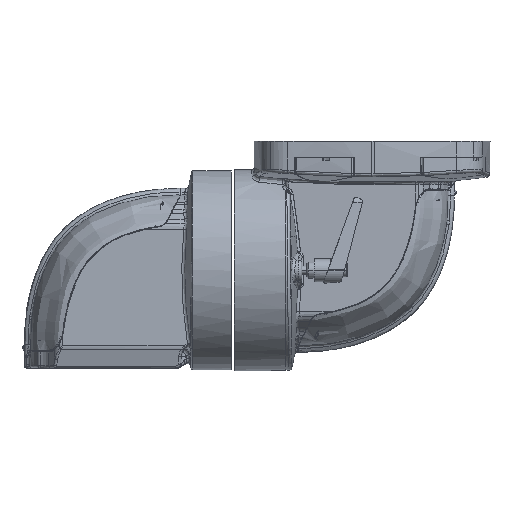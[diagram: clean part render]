
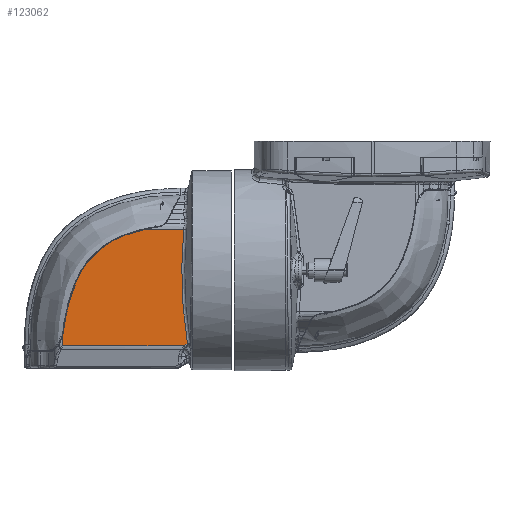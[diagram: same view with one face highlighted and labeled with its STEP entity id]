
A CAD part, left-side view. The second image highlights one B-rep face of the part: STEP entity #123062.
In plain terms, the highlighted planar face has unit normal (-1, 0.011, 0) as drawn and (-0.009, 0, 1) by its records, which use the part's own axes.
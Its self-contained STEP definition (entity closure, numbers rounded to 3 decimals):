
#626 = EDGE_CURVE ( 'NONE', #177926, #51211, #322505, .T. ) ;
#3096 = ORIENTED_EDGE ( 'NONE', *, *, #111927, .F. ) ;
#14087 = CARTESIAN_POINT ( 'NONE',  ( 104.365, -152.434, 13.564 ) ) ;
#16990 = CARTESIAN_POINT ( 'NONE',  ( 143.044, -91.233, 13.901 ) ) ;
#20393 = CARTESIAN_POINT ( 'NONE',  ( 112.494, -120.004, 13.635 ) ) ;
#22169 = CARTESIAN_POINT ( 'NONE',  ( 141.045, -92.012, 13.884 ) ) ;
#28403 = AXIS2_PLACEMENT_3D ( 'NONE', #241424, #115222, #38843 ) ;
#29060 = CARTESIAN_POINT ( 'NONE',  ( 179.18, -158.634, 14.217 ) ) ;
#33156 = DIRECTION ( 'NONE',  ( 0., -1., 0. ) ) ;
#36340 = CARTESIAN_POINT ( 'NONE',  ( 154.84, -87.795, 14.005 ) ) ;
#37198 = CARTESIAN_POINT ( 'NONE',  ( 144.909, -90.545, 13.918 ) ) ;
#38843 = DIRECTION ( 'NONE',  ( -0.996, 0.09, -0.009 ) ) ;
#48565 = VERTEX_POINT ( 'NONE', #36340 ) ;
#51211 = VERTEX_POINT ( 'NONE', #14087 ) ;
#52977 = CARTESIAN_POINT ( 'NONE',  ( 141.709, -91.747, 13.89 ) ) ;
#53447 = B_SPLINE_CURVE_WITH_KNOTS ( 'NONE', 3,
 ( #153755, #149409, #52977, #175966 ),
 .UNSPECIFIED., .F., .F.,
 ( 4, 4 ),
 ( 0., 1. ),
 .UNSPECIFIED. ) ;
#59380 = ORIENTED_EDGE ( 'NONE', *, *, #305714, .T. ) ;
#63845 = AXIS2_PLACEMENT_3D ( 'NONE', #232566, #182746, #86402 ) ;
#74549 = CARTESIAN_POINT ( 'NONE',  ( 104.904, -149.394, 13.569 ) ) ;
#77712 = CARTESIAN_POINT ( 'NONE',  ( 104.365, -159.142, 13.564 ) ) ;
#85977 = FACE_OUTER_BOUND ( 'NONE', #182164, .T. ) ;
#86402 = DIRECTION ( 'NONE',  ( 0., -1., 0. ) ) ;
#87026 = CARTESIAN_POINT ( 'NONE',  ( 153.836, -88.017, 13.996 ) ) ;
#88120 = CARTESIAN_POINT ( 'NONE',  ( 148.983, -89.286, 13.953 ) ) ;
#99994 = VERTEX_POINT ( 'NONE', #16990 ) ;
#106438 = VERTEX_POINT ( 'NONE', #22169 ) ;
#108647 = CARTESIAN_POINT ( 'NONE',  ( 180.65, -157.91, 14.23 ) ) ;
#110287 = CARTESIAN_POINT ( 'NONE',  ( 149.135, -89.242, 13.955 ) ) ;
#111370 = CARTESIAN_POINT ( 'NONE',  ( 149.044, -89.269, 13.954 ) ) ;
#111927 = EDGE_CURVE ( 'NONE', #48565, #207827, #232669, .T. ) ;
#113589 = CARTESIAN_POINT ( 'NONE',  ( 146.868, -89.899, 13.935 ) ) ;
#115222 = DIRECTION ( 'NONE',  ( -0.009, 0., 1. ) ) ;
#117806 = CARTESIAN_POINT ( 'NONE',  ( 135.582, -94.157, 13.837 ) ) ;
#118044 = ORIENTED_EDGE ( 'NONE', *, *, #214917, .F. ) ;
#118942 = EDGE_CURVE ( 'NONE', #51211, #320028, #311644, .T. ) ;
#121607 = VERTEX_POINT ( 'NONE', #228374 ) ;
#123062 = ADVANCED_FACE ( 'NONE', ( #85977 ), #129628, .T. ) ;
#129628 = PLANE ( 'NONE',  #63845 ) ;
#130434 = EDGE_CURVE ( 'NONE', #106438, #197953, #306468, .T. ) ;
#132788 = CARTESIAN_POINT ( 'NONE',  ( 104.365, -152.434, 13.564 ) ) ;
#137986 = CARTESIAN_POINT ( 'NONE',  ( 149.772, -89.061, 13.96 ) ) ;
#140952 = ORIENTED_EDGE ( 'NONE', *, *, #626, .T. ) ;
#145481 = CARTESIAN_POINT ( 'NONE',  ( 117.274, -110.392, 13.677 ) ) ;
#145960 = EDGE_CURVE ( 'NONE', #48565, #99994, #206613, .T. ) ;
#149409 = CARTESIAN_POINT ( 'NONE',  ( 142.376, -91.49, 13.896 ) ) ;
#153084 = CARTESIAN_POINT ( 'NONE',  ( 178.538, -159.142, 14.211 ) ) ;
#153755 = CARTESIAN_POINT ( 'NONE',  ( 143.044, -91.233, 13.901 ) ) ;
#156339 = CARTESIAN_POINT ( 'NONE',  ( 180.65, -157.91, 14.23 ) ) ;
#164527 = CARTESIAN_POINT ( 'NONE',  ( 152.344, -88.372, 13.983 ) ) ;
#167662 = CARTESIAN_POINT ( 'NONE',  ( 141.045, -92.012, 13.884 ) ) ;
#172364 = B_SPLINE_CURVE_WITH_KNOTS ( 'NONE', 3,
 ( #156339, #304839, #29060, #153084 ),
 .UNSPECIFIED., .F., .F.,
 ( 4, 4 ),
 ( 0., 1. ),
 .UNSPECIFIED. ) ;
#173293 = CARTESIAN_POINT ( 'NONE',  ( 154.84, -87.795, 14.005 ) ) ;
#175966 = CARTESIAN_POINT ( 'NONE',  ( 141.045, -92.012, 13.884 ) ) ;
#177926 = VERTEX_POINT ( 'NONE', #74549 ) ;
#182164 = EDGE_LOOP ( 'NONE', ( #3096, #293513, #59380, #259209, #202620, #140952, #245825, #118044, #271989, #237440 ) ) ;
#182746 = DIRECTION ( 'NONE',  ( -0.009, 0., 1. ) ) ;
#188911 = CARTESIAN_POINT ( 'NONE',  ( 148.955, -89.294, 13.953 ) ) ;
#197953 = VERTEX_POINT ( 'NONE', #225055 ) ;
#199777 = CARTESIAN_POINT ( 'NONE',  ( 104.79, -150.416, 13.568 ) ) ;
#202620 = ORIENTED_EDGE ( 'NONE', *, *, #325155, .T. ) ;
#203173 = B_SPLINE_CURVE_WITH_KNOTS ( 'NONE', 3,
 ( #20393, #297270, #222964, #321636 ),
 .UNSPECIFIED., .F., .F.,
 ( 4, 4 ),
 ( 0., 1. ),
 .UNSPECIFIED. ) ;
#205311 = CARTESIAN_POINT ( 'NONE',  ( 178.538, -159.142, 14.211 ) ) ;
#206231 = CIRCLE ( 'NONE', #28403, 284.104 ) ;
#206613 = B_SPLINE_CURVE_WITH_KNOTS ( 'NONE', 3,
 ( #287471, #87026, #164527, #214345, #137986, #315161, #110287, #111370, #88120, #188911, #113589, #37198, #265269 ),
 .UNSPECIFIED., .F., .F.,
 ( 4, 1, 1, 1, 1, 1, 2, 2, 4 ),
 ( 0., 0.25, 0.375, 0.438, 0.469, 0.484, 0.492, 0.5, 1. ),
 .UNSPECIFIED. ) ;
#206667 = EDGE_CURVE ( 'NONE', #207827, #292141, #206231, .T. ) ;
#207827 = VERTEX_POINT ( 'NONE', #265243 ) ;
#214345 = CARTESIAN_POINT ( 'NONE',  ( 150.625, -88.825, 13.968 ) ) ;
#214917 = EDGE_CURVE ( 'NONE', #121607, #320028, #252524, .T. ) ;
#219647 = CARTESIAN_POINT ( 'NONE',  ( 113.657, -117.365, 13.645 ) ) ;
#221830 = CARTESIAN_POINT ( 'NONE',  ( 113.047, -118.672, 13.64 ) ) ;
#222964 = CARTESIAN_POINT ( 'NONE',  ( 106.035, -139.289, 13.579 ) ) ;
#224158 = CARTESIAN_POINT ( 'NONE',  ( 104.365, -152.434, 13.564 ) ) ;
#225055 = CARTESIAN_POINT ( 'NONE',  ( 112.494, -120.004, 13.635 ) ) ;
#226334 = DIRECTION ( 'NONE',  ( 1., 0., 0.009 ) ) ;
#228374 = CARTESIAN_POINT ( 'NONE',  ( 178.538, -159.142, 14.211 ) ) ;
#229650 = DIRECTION ( 'NONE',  ( -1., 0., -0.009 ) ) ;
#232566 = CARTESIAN_POINT ( 'NONE',  ( 183.943, -119.631, 14.259 ) ) ;
#232669 = LINE ( 'NONE', #173293, #276279 ) ;
#237440 = ORIENTED_EDGE ( 'NONE', *, *, #206667, .F. ) ;
#241424 = CARTESIAN_POINT ( 'NONE',  ( 461.242, -113.445, 16.678 ) ) ;
#245825 = ORIENTED_EDGE ( 'NONE', *, *, #118942, .T. ) ;
#248547 = CARTESIAN_POINT ( 'NONE',  ( 104.904, -149.394, 13.569 ) ) ;
#252141 = EDGE_CURVE ( 'NONE', #292141, #121607, #172364, .T. ) ;
#252161 = VECTOR ( 'NONE', #33156, 1000. ) ;
#252524 = LINE ( 'NONE', #205311, #308178 ) ;
#259209 = ORIENTED_EDGE ( 'NONE', *, *, #130434, .T. ) ;
#265243 = CARTESIAN_POINT ( 'NONE',  ( 178.309, -87.795, 14.209 ) ) ;
#265269 = CARTESIAN_POINT ( 'NONE',  ( 143.044, -91.233, 13.901 ) ) ;
#268392 = CARTESIAN_POINT ( 'NONE',  ( 121.271, -105.304, 13.712 ) ) ;
#271989 = ORIENTED_EDGE ( 'NONE', *, *, #252141, .F. ) ;
#276279 = VECTOR ( 'NONE', #226334, 1000. ) ;
#287471 = CARTESIAN_POINT ( 'NONE',  ( 154.84, -87.795, 14.005 ) ) ;
#292141 = VERTEX_POINT ( 'NONE', #108647 ) ;
#293513 = ORIENTED_EDGE ( 'NONE', *, *, #145960, .T. ) ;
#295018 = CARTESIAN_POINT ( 'NONE',  ( 130.529, -97.226, 13.792 ) ) ;
#297270 = CARTESIAN_POINT ( 'NONE',  ( 108.59, -129.394, 13.601 ) ) ;
#304839 = CARTESIAN_POINT ( 'NONE',  ( 179.891, -158.219, 14.223 ) ) ;
#305714 = EDGE_CURVE ( 'NONE', #99994, #106438, #53447, .T. ) ;
#306468 = B_SPLINE_CURVE_WITH_KNOTS ( 'NONE', 3,
 ( #167662, #117806, #295018, #268392, #145481, #219647, #221830, #321567 ),
 .UNSPECIFIED., .F., .F.,
 ( 4, 2, 2, 4 ),
 ( 0., 0.428, 0.895, 1. ),
 .UNSPECIFIED. ) ;
#308178 = VECTOR ( 'NONE', #229650, 1000. ) ;
#311644 = LINE ( 'NONE', #132788, #252161 ) ;
#315161 = CARTESIAN_POINT ( 'NONE',  ( 149.347, -89.182, 13.957 ) ) ;
#320028 = VERTEX_POINT ( 'NONE', #77712 ) ;
#321567 = CARTESIAN_POINT ( 'NONE',  ( 112.494, -120.004, 13.635 ) ) ;
#321636 = CARTESIAN_POINT ( 'NONE',  ( 104.904, -149.394, 13.569 ) ) ;
#322505 = B_SPLINE_CURVE_WITH_KNOTS ( 'NONE', 3,
 ( #248547, #199777, #328190, #224158 ),
 .UNSPECIFIED., .F., .F.,
 ( 4, 4 ),
 ( 0., 1. ),
 .UNSPECIFIED. ) ;
#325155 = EDGE_CURVE ( 'NONE', #197953, #177926, #203173, .T. ) ;
#328190 = CARTESIAN_POINT ( 'NONE',  ( 104.613, -151.435, 13.566 ) ) ;
